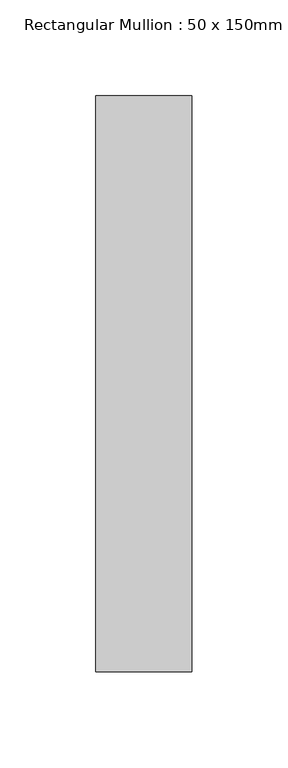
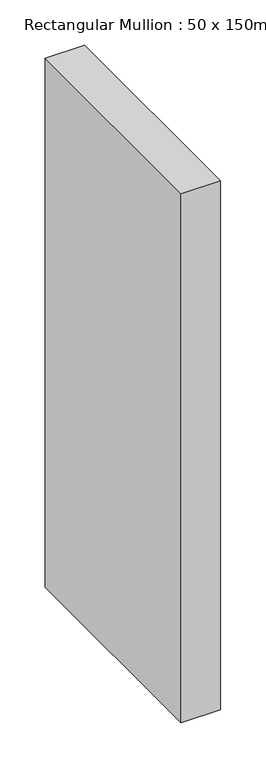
"""IFC4 building model written with IfcOpenShell, lengths in millimetres: member geometry, Rectangular Mullion : 50 x 150mm."""

from ifc_helpers import new_model, si_unit, frame, origin, place, context, project, spatial, polyline, outline, extrude, source, transform, mapped, element, save


def rectangular_mullion_50_x_150mm_d157fd23(model_context):
    return source(origin(), model_context, "Body", "SweptSolid", [
        extrude(outline(polyline([(0.0, 175.0), (0.0, -125.0), (-50.0, -125.0), (-50.0, 175.0), (0.0, 175.0)])), frame((0.0, 0.0, -711.75), z_axis=(0.0, 0.0, 1.0), x_axis=(1.0, 0.0, 0.0)), (0.0, 0.0, 1.0), 711.75),
    ])


if __name__ == "__main__":
    model = new_model("IFC4")
    model_context = context("Model", 3, world=origin())
    ifc_project = project(units=[si_unit("LENGTHUNIT", "METRE", prefix="MILLI")], contexts=[model_context])
    site = spatial("IfcSite", under=ifc_project)
    building = spatial("IfcBuilding", under=site)
    placement = place(None, origin())
    rectangular_mullion_50_x_150mm_shape = rectangular_mullion_50_x_150mm_d157fd23(model_context)
    element("IfcMember", 1, ObjectType="Rectangular Mullion : 50 x 150mm", at=placement, inside=building, context=model_context, shape_type="MappedRepresentation", body=[
        mapped(rectangular_mullion_50_x_150mm_shape, transform((0.0, 0.0, 0.0), x_axis=(1.0, 0.0, 0.0), y_axis=(0.0, 1.0, 0.0), z_axis=(0.0, 0.0, 1.0))),
    ])
    save(model, "model.ifc")
